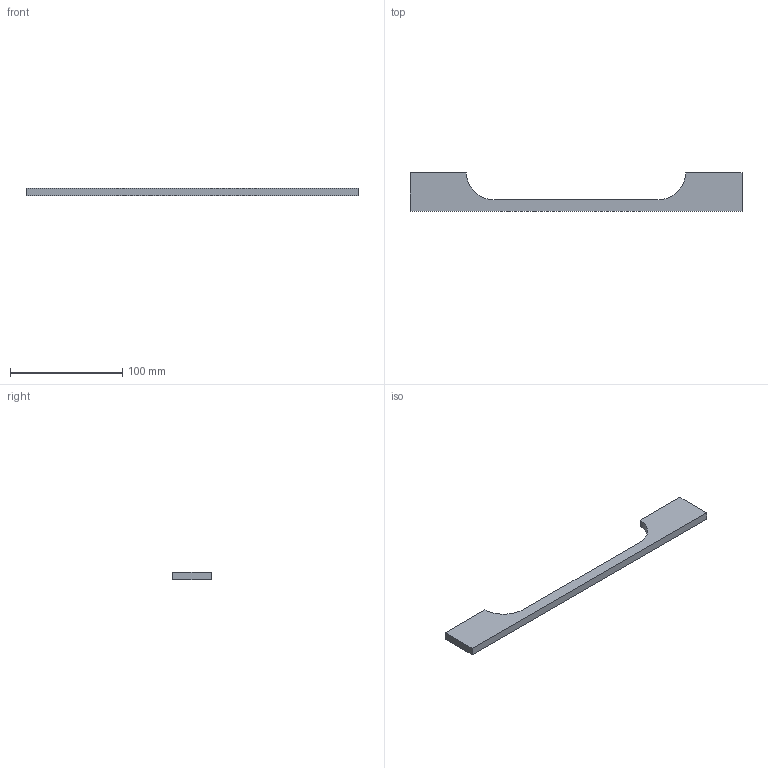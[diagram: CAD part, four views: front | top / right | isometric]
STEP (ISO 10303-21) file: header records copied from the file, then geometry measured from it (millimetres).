
FILE_DESCRIPTION( ( 'STEP AP214' ), '1' );
FILE_NAME( 'C:/Users/swati/Desktop/10-03-2016/11-03-2016/9071929/9071929.stp', ' ', ( ' ' ), ( ' ' ), 'PSStep 15.0.47', 'PARTsolutions', ' ' );
FILE_SCHEMA( ( 'AUTOMOTIVE_DESIGN { 1 0 10303 214 1 1 1 1 }' ) );
Length unit declared in the file: millimetre
Products named in the file (2): 95 ; _
Assembly tree (1 placements, depth 2):
  95 
    _
Bounding box: 296 x 34 x 7 mm (x, y, z)
Volume: 38988.8 mm3; surface area: 16462.7 mm2
Topology: 1 solids, 1 shells, 18 faces, 36 edges, 24 vertices
Faces by surface type: plane 12, cylinder 6
Full cylindrical faces by diameter (mm): 4 x4
Entity records: 634 total; most frequent: DIRECTION 84, CARTESIAN_POINT 76, ORIENTED_EDGE 64, AXIS2_PLACEMENT_3D 32, EDGE_CURVE 32, EDGE_LOOP 26, VERTEX_POINT 24, FACE_OUTER_BOUND 22
